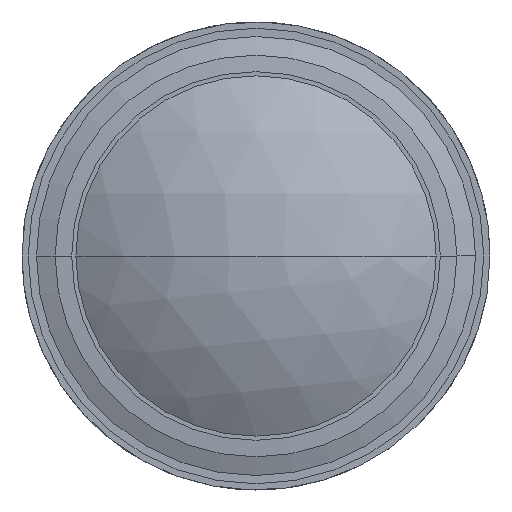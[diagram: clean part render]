
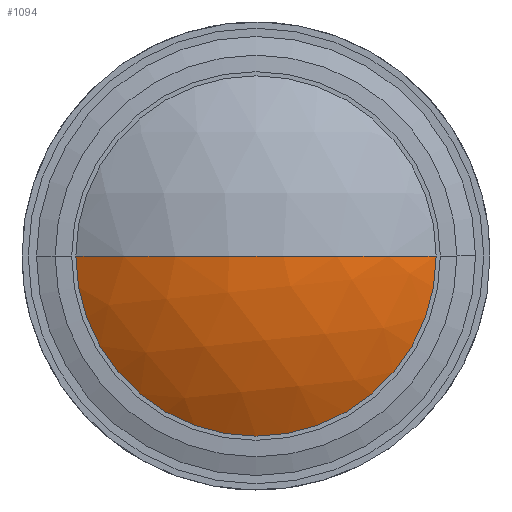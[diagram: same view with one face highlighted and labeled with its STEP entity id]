
A CAD part, left-side view. The second image highlights one B-rep face of the part: STEP entity #1094.
In plain terms, the highlighted spherical face has radius 40.243 mm.
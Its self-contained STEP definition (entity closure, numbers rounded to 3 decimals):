
#50 = DIRECTION ( 'NONE',  ( 1., 0., 0. ) ) ;
#402 = AXIS2_PLACEMENT_3D ( 'NONE', #7849, #3029, #11877 ) ;
#966 = VERTEX_POINT ( 'NONE', #12284 ) ;
#1094 = ADVANCED_FACE ( 'NONE', ( #2572 ), #5018, .T. ) ;
#1195 = DIRECTION ( 'NONE',  ( -0.841, -0.54, 0. ) ) ;
#1560 = AXIS2_PLACEMENT_3D ( 'NONE', #12428, #7404, #1195 ) ;
#1622 = EDGE_CURVE ( 'NONE', #5721, #966, #11473, .T. ) ;
#2572 = FACE_OUTER_BOUND ( 'NONE', #8793, .T. ) ;
#2747 = CIRCLE ( 'NONE', #4855, 21.75 ) ;
#3029 = DIRECTION ( 'NONE',  ( 0., -0.104, -0.995 ) ) ;
#4092 = DIRECTION ( 'NONE',  ( 0., 0., -1. ) ) ;
#4817 = ORIENTED_EDGE ( 'NONE', *, *, #13024, .F. ) ;
#4855 = AXIS2_PLACEMENT_3D ( 'NONE', #9101, #50, #4092 ) ;
#5018 = SPHERICAL_SURFACE ( 'NONE', #402, 40.243 ) ;
#5721 = VERTEX_POINT ( 'NONE', #11310 ) ;
#7404 = DIRECTION ( 'NONE',  ( 0., 0., -1. ) ) ;
#7849 = CARTESIAN_POINT ( 'NONE',  ( -11.915, 0., 0. ) ) ;
#8144 = ORIENTED_EDGE ( 'NONE', *, *, #1622, .T. ) ;
#8793 = EDGE_LOOP ( 'NONE', ( #4817, #8144 ) ) ;
#9101 = CARTESIAN_POINT ( 'NONE',  ( -45.773, 0., 0. ) ) ;
#11310 = CARTESIAN_POINT ( 'NONE',  ( -45.773, -21.75, 0. ) ) ;
#11473 = CIRCLE ( 'NONE', #1560, 40.243 ) ;
#11877 = DIRECTION ( 'NONE',  ( 0., -0.995, 0.104 ) ) ;
#12284 = CARTESIAN_POINT ( 'NONE',  ( -45.773, 21.75, 0. ) ) ;
#12428 = CARTESIAN_POINT ( 'NONE',  ( -11.915, 0., 0. ) ) ;
#13024 = EDGE_CURVE ( 'NONE', #5721, #966, #2747, .T. ) ;
